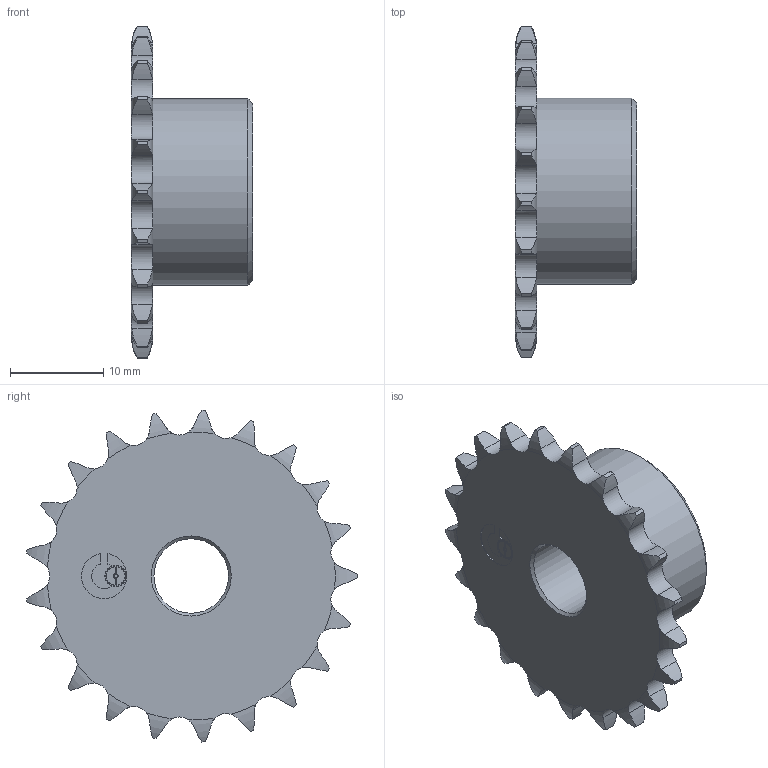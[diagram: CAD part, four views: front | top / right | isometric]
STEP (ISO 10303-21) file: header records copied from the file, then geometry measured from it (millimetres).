
FILE_DESCRIPTION(/* description */ (''),/* implementation_level */ '2;1');
FILE_NAME(/* name */ 'C:\Users\luca.leone\Desktop\DIN8187 5x2.5\DIN8187 5x2.5 - 3D\10105021.stp',/* time_stamp */ '2022-09-13T15:13:30+02:00',/* author */ ('luca.leone'),/* organization */ (''),/* preprocessor_version */ 'ST-DEVELOPER v18.1',/* originating_system */ 'Autodesk Inventor 2022',/* authorisation */ '');
FILE_SCHEMA (('AUTOMOTIVE_DESIGN { 1 0 10303 214 3 1 1 }'));
Length unit declared in the file: millimetre
Products named in the file (1): 10105021
Bounding box: 13 x 35.53 x 35.63 mm (x, y, z)
Volume: 4559.2 mm3; surface area: 2837.9 mm2
Topology: 1 solids, 1 shells, 226 faces, 655 edges, 435 vertices
Faces by surface type: cylinder 128, plane 53, torus 42, cone 3
Full cylindrical faces by diameter (mm): 0.402 x1, 8 x1, 20 x1
Entity records: 8035 total; most frequent: CARTESIAN_POINT 2145, ORIENTED_EDGE 1310, DIRECTION 1158, EDGE_CURVE 655, AXIS2_PLACEMENT_3D 444, VERTEX_POINT 435, LINE 270, VECTOR 270
